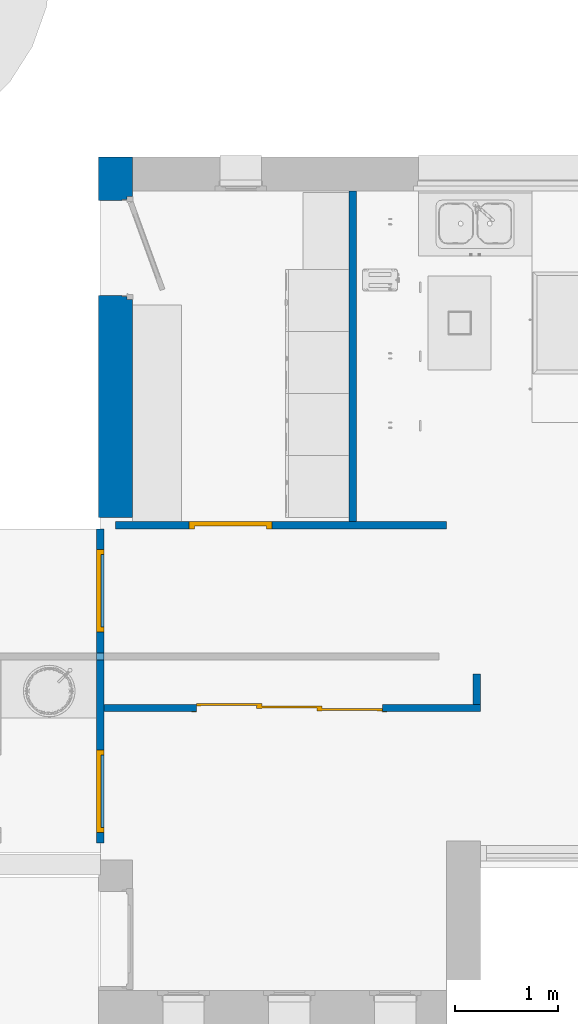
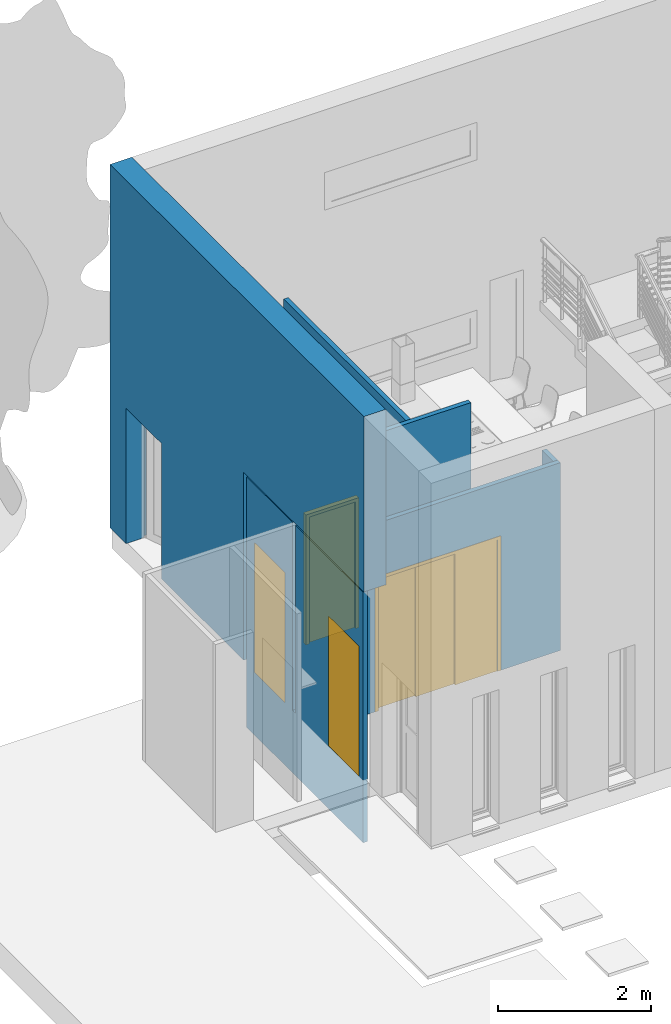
# One storey, part 10 of 40: 6 walls, 4 doors, 6 openings.
"""IFC2X3 building model written with IfcOpenShell, lengths in metres."""

from ifc_helpers import new_model, entity, si_unit, converted_unit, derived_unit, direction, frame, frame_2d, origin, origin_2d_with_axis, place, context, subcontext, project, spatial, polyline, circle_curve, parameter, trimmed, segment, composite_curve, rectangle, outline, extrude, clip, halfspace, bounded_halfspace, faceted_brep, source, transform, mapped, material, material_list, layer, layer_set, layer_usage, type_object, type_shapes, element, fill, save


model = new_model("IFC2X3")

# Units and contexts
model_context = context("Model", 3, precision=1e-05, world=origin(), true_north=direction((6.12303176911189e-17, 1.0)))
body_context = subcontext(model_context, "Body", "Model", "MODEL_VIEW")
ifc_project = project(units=[si_unit("LENGTHUNIT", "METRE"), si_unit("AREAUNIT", "SQUARE_METRE"), si_unit("VOLUMEUNIT", "CUBIC_METRE"), converted_unit("PLANEANGLEUNIT", "DEGREE", entity("IfcRatioMeasure", 0.0174532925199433), si_unit("PLANEANGLEUNIT", "RADIAN"), dimensions=[0, 0, 0, 0, 0, 0, 0]), si_unit("MASSUNIT", "GRAM", prefix="KILO"), derived_unit("MASSDENSITYUNIT", [(si_unit("MASSUNIT", "GRAM", prefix="KILO"), 1), (si_unit("LENGTHUNIT", "METRE"), -3)]), si_unit("TIMEUNIT", "SECOND"), si_unit("FREQUENCYUNIT", "HERTZ"), si_unit("THERMODYNAMICTEMPERATUREUNIT", "DEGREE_CELSIUS"), derived_unit("THERMALTRANSMITTANCEUNIT", [(si_unit("MASSUNIT", "GRAM", prefix="KILO"), 1), (si_unit("THERMODYNAMICTEMPERATUREUNIT", "KELVIN"), -1), (si_unit("TIMEUNIT", "SECOND"), -3)]), derived_unit("VOLUMETRICFLOWRATEUNIT", [(si_unit("LENGTHUNIT", "METRE"), 3), (si_unit("TIMEUNIT", "SECOND"), -1)]), si_unit("ELECTRICCURRENTUNIT", "AMPERE"), si_unit("ELECTRICVOLTAGEUNIT", "VOLT"), si_unit("POWERUNIT", "WATT"), si_unit("FORCEUNIT", "NEWTON", prefix="KILO"), si_unit("ILLUMINANCEUNIT", "LUX"), si_unit("LUMINOUSFLUXUNIT", "LUMEN"), si_unit("LUMINOUSINTENSITYUNIT", "CANDELA"), derived_unit("USERDEFINED", [(si_unit("MASSUNIT", "GRAM", prefix="KILO"), -1), (si_unit("LENGTHUNIT", "METRE"), -2), (si_unit("TIMEUNIT", "SECOND"), 3), (si_unit("LUMINOUSFLUXUNIT", "LUMEN"), 1)]), derived_unit("LINEARVELOCITYUNIT", [(si_unit("LENGTHUNIT", "METRE"), 1), (si_unit("TIMEUNIT", "SECOND"), -1)]), si_unit("PRESSUREUNIT", "PASCAL"), derived_unit("USERDEFINED", [(si_unit("LENGTHUNIT", "METRE"), -2), (si_unit("MASSUNIT", "GRAM", prefix="KILO"), 1), (si_unit("TIMEUNIT", "SECOND"), -2)])], contexts=[model_context])

# Site, building, storey
site_placement = place(None, origin())
site = spatial("IfcSite", under=ifc_project, at=site_placement, Name="Surface", CompositionType="ELEMENT")
building_placement = place(site_placement, origin())
building = spatial("IfcBuilding", under=site, at=building_placement, CompositionType="ELEMENT")
storey_placement = place(building_placement, origin())
storey = spatial("IfcBuildingStorey", under=building, at=storey_placement, Name="RDC", CompositionType="ELEMENT", Elevation=-1.0941605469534e-13)

# Wall, openings
ifc_material_1 = material(Name="Maçonnerie - Enduit")
ifc_layer_1 = layer(ifc_material_1, 0.02)
ifc_material_2 = material(Name="Blocs béton manufacturés")
ifc_layer_2 = layer(ifc_material_2, 0.2)
ifc_material_3 = material(Name="vide")
ifc_layer_3 = layer(ifc_material_3, 0.01)
ifc_material_4 = material(Name="Maçonnerie - Isolant")
ifc_layer_4 = layer(ifc_material_4, 0.09)
ifc_material_5 = material(Name="Plâtre")
ifc_layer_5 = layer(ifc_material_5, 0.01)
ifc_layer_set_1 = layer_set([ifc_layer_1, ifc_layer_2, ifc_layer_3, ifc_layer_4, ifc_layer_5], Name="Mur de base:M7 Ext. Crépis 2 + BBMC 20 + Isolant 11")
ifc_layer_usage_1 = layer_usage(ifc_layer_set_1, "AXIS2", "NEGATIVE", 0.165)
wall_type_1 = type_object("IfcWallType", Name="Mur de base:M7 Ext. Crépis 2 + BBMC 20 + Isolant 11", PredefinedType="STANDARD", material=ifc_layer_set_1)
wall_1_placement = place(storey_placement, frame((-4.8374888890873, 1.23701067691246, 0.0), z_axis=(0.0, 0.0, 1.0), x_axis=(0.0, 1.0, 0.0)))
wall_1 = element("IfcWallStandardCase", 1, at=wall_1_placement, inside=storey, type_object=wall_type_1, material=ifc_layer_usage_1, Name="Mur de base:M7 Ext. Crépis 2 + BBMC 20 + Isolant 11", ObjectType="Mur de base:M7 Ext. Crépis 2 + BBMC 20 + Isolant 11", context=body_context, shape_type="Clipping", body=[
    clip(extrude(rectangle(XDim=6.64000000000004, YDim=0.33, at=frame_2d((3.32000000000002, -6.93889390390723e-17), x_axis=(-1.0, 0.0))), origin(), (0.0, 0.0, 1.0), 5.80000000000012), halfspace(frame((0.0, 0.0, 3.0), z_axis=(-0.689655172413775, 0.0, -0.7241379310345), x_axis=(0.0, 1.0, 0.0)), False)),
])
opening_1_placement = place(wall_1_placement, origin())
element("IfcOpeningElement", 2, at=opening_1_placement, cuts=wall_1, Name="Mur de base:M7 Ext. Crépis 2 + BBMC 20 + Isolant 11", ObjectType="Opening", context=body_context, shape_type="SweptSolid", body=[
    extrude(outline(polyline([(-2.21034482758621, -0.724137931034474), (2.13965517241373, -0.724137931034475), (0.0706896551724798, 1.44827586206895), (-2.21034482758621, -0.724137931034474)])), frame((2.10000000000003, 0.165, 2.0), z_axis=(0.0, -1.0, 0.0), x_axis=(0.7241379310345, 0.0, -0.689655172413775)), (0.0, 0.0, 1.0), 0.33),
])
opening_2_placement = place(wall_1_placement, frame((5.26000000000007, 0.465000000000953, 0.0), z_axis=(0.0, 0.0, 1.0), x_axis=(0.0, -1.0, 0.0)))
element("IfcOpeningElement", 3, at=opening_2_placement, cuts=wall_1, Name="Mur de base:M7 Ext. Crépis 2 + BBMC 20 + Isolant 11", ObjectType="Opening", context=body_context, shape_type="Brep", body=[
    faceted_brep([(0.930000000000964, 0.960000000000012, 2.15999999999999), (0.638000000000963, 0.960000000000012, 2.15999999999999), (0.638000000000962, 0.0400000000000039, 2.15999999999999), (0.930000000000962, 0.0400000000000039, 2.15999999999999), (0.0, 0.960000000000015, 0.0), (0.530000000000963, 0.960000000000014, 0.0), (0.530000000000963, 0.969999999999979, 0.0), (0.578000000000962, 0.969999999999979, 0.0), (0.578000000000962, 1.0, 0.0), (0.638000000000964, 1.0, 0.0), (0.638000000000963, 0.959999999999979, 0.0), (0.930000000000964, 0.960000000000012, 0.0), (0.930000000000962, 0.0400000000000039, 0.0), (0.638000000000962, 0.0400000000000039, 0.0), (0.638000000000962, 0.0, 0.0), (0.57800000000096, 0.0, 0.0), (0.57800000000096, 0.0300000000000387, 0.0), (0.530000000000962, 0.0300000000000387, 0.0), (0.530000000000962, 0.0400000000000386, 0.0), (0.0, 0.040000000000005, 0.0), (0.0, 0.960000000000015, 2.15999999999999), (0.530000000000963, 0.960000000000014, 2.15999999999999), (0.0, 0.040000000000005, 2.15999999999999), (0.578000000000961, 0.0, 2.2), (0.578000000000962, 1.0, 2.2), (0.578000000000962, 0.969999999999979, 2.16999999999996), (0.578000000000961, 0.0300000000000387, 2.16999999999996), (0.530000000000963, 0.0300000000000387, 2.16999999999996), (0.530000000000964, 0.969999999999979, 2.16999999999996), (0.530000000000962, 0.0400000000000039, 2.15999999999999), (0.638000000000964, 1.0, 2.2), (0.638000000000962, 0.0, 2.2)], [[[0, 1, 2, 3]], [[4, 5, 6, 7, 8, 9, 10, 11, 12, 13, 14, 15, 16, 17, 18, 19]], [[20, 21, 5, 4]], [[20, 4, 19, 22]], [[3, 2, 13, 12]], [[3, 12, 11, 0]], [[15, 23, 24, 8, 7, 25, 26, 16]], [[16, 26, 27, 17]], [[17, 27, 28, 6, 5, 21, 29, 18]], [[13, 2, 1, 10, 9, 30, 31, 14]], [[14, 31, 23, 15]], [[25, 28, 27, 26]], [[23, 31, 30, 24]], [[7, 6, 28, 25]], [[24, 30, 9, 8]], [[19, 18, 29, 22]], [[11, 10, 1, 0]], [[22, 29, 21, 20]]]),
])

# Wall, openings, doors
ifc_material_6 = material(Name="Mur par défaut")
ifc_layer_6 = layer(ifc_material_6, 0.07)
ifc_layer_set_2 = layer_set([ifc_layer_6], Name="Mur de base:Générique - Int. 70 mm")
ifc_layer_usage_2 = layer_usage(ifc_layer_set_2, "AXIS2", "POSITIVE", -0.035)
wall_type_2 = type_object("IfcWallType", Name="Mur de base:Générique - Int. 70 mm", PredefinedType="STANDARD", material=ifc_layer_set_2)
wall_2_placement = place(storey_placement, frame((-4.9824888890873, 1.23701067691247, -1.0), z_axis=(0.0, 0.0, 1.0), x_axis=(0.0, 1.0, 0.0)))
wall_2 = element("IfcWallStandardCase", 4, at=wall_2_placement, inside=storey, type_object=wall_type_2, material=ifc_layer_usage_2, Name="Mur de base:Générique - Int. 70 mm", ObjectType="Mur de base:Générique - Int. 70 mm", context=body_context, shape_type="Clipping", body=[
    clip(extrude(rectangle(XDim=3.04000000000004, YDim=0.0699999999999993, at=frame_2d((1.52000000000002, -1.59594559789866e-16), x_axis=(-1.0, 0.0))), origin(), (0.0, 0.0, 1.0), 3.99999999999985), bounded_halfspace(frame((1.77, 0.0349999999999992, 1.0), z_axis=(0.0, 0.0, -1.0), x_axis=(1.0, 0.0, 0.0)), True, frame((1.77, 0.0349999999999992, 1.0), z_axis=(0.0, 0.0, -1.0), x_axis=(1.0, 0.0, 0.0)), polyline([(0.0, 0.0), (0.0699999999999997, 0.0), (0.0699999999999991, 0.0700000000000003), (0.0, 0.0700000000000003), (0.0, 0.0)]))),
])
opening_3_placement = place(wall_2_placement, frame((2.04000000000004, -0.0349999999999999, 1.0)))
opening_3 = element("IfcOpeningElement", 5, at=opening_3_placement, cuts=wall_2, Name="Int. Simple:PP (0.73m x 2.04m):1", ObjectType="Opening", context=body_context, shape_type="SweptSolid", body=[
    extrude(rectangle(XDim=2.075, YDim=0.799999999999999, at=frame_2d((1.0375, 0.4), x_axis=(1.0, 0.0))), frame((0.0, 0.0, 0.0), z_axis=(0.0, 1.0, 0.0), x_axis=(0.0, 0.0, 1.0)), (0.0, 0.0, 1.0), 0.07),
])
opening_4_placement = place(wall_2_placement, frame((0.100000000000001, -0.0349999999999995, 1.0)))
opening_4 = element("IfcOpeningElement", 6, at=opening_4_placement, cuts=wall_2, Name="Int. Simple:PP (0.73m x 2.04m):1", ObjectType="Opening", context=body_context, shape_type="SweptSolid", body=[
    extrude(rectangle(XDim=2.075, YDim=0.799999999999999, at=frame_2d((1.0375, 0.4), x_axis=(1.0, 0.0))), frame((0.0, 0.0, 0.0), z_axis=(0.0, 1.0, 0.0), x_axis=(0.0, 0.0, 1.0)), (0.0, 0.0, 1.0), 0.07),
])
ifc_material_7 = material(Name="Bois - Panneau de porte")
ifc_material_8 = material(Name="Bois - Cadre de porte")
ifc_material_list_1 = material_list([ifc_material_7, ifc_material_8])
ifc_material_list_2 = material_list([ifc_material_7, ifc_material_8])
door_style_1 = type_object("IfcDoorStyle", Name="PP (0.73m x 2.04m)", ConstructionType="NOTDEFINED", OperationType="SINGLE_SWING_RIGHT", ParameterTakesPrecedence=False, Sizeable=False, material=ifc_material_list_2)
shared_shape_1 = source(origin(), body_context, "Body", "Brep", [
    faceted_brep([(0.835000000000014, 0.0400000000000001, 2.04), (0.835000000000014, 0.0400000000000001, 0.0), (0.105000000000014, 0.0400000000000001, 0.0), (0.105000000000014, 0.0400000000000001, 2.04), (0.835000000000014, 0.0, 2.04), (0.105000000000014, 0.0, 2.04), (0.105000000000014, 0.0, 0.0), (0.835000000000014, 0.0, 0.0)], [[[0, 1, 2, 3]], [[4, 5, 6, 7]], [[3, 5, 4, 0]], [[2, 6, 5, 3]], [[1, 7, 6, 2]], [[0, 4, 7, 1]]]),
    faceted_brep([(0.870000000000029, 0.0, 0.0), (0.835000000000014, 0.0, 0.0), (0.835000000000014, 0.04, 0.0), (0.820000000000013, 0.04, 0.0), (0.820000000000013, 0.0699999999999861, 0.0), (0.870000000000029, 0.0699999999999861, 0.0), (0.870000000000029, 0.0699999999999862, 2.07500000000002), (0.870000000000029, 0.0, 2.07500000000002), (0.820000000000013, 0.0699999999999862, 2.025), (0.120000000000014, 0.0699999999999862, 2.025), (0.120000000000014, 0.0699999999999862, 0.0), (0.0699999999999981, 0.0699999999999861, 0.0), (0.0699999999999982, 0.0699999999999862, 2.07500000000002), (0.820000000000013, 0.04, 2.025), (0.835000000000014, 0.04, 2.04), (0.105000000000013, 0.04, 2.04), (0.105000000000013, 0.04, 0.0), (0.120000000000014, 0.04, 0.0), (0.120000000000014, 0.04, 2.025), (0.835000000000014, 0.0, 2.04), (0.0699999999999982, 0.0, 2.07500000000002), (0.0699999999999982, 0.0, 0.0), (0.105000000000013, 0.0, 0.0), (0.105000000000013, 0.0, 2.04)], [[[0, 1, 2, 3, 4, 5]], [[5, 6, 7, 0]], [[4, 8, 9, 10, 11, 12, 6, 5]], [[3, 13, 8, 4]], [[2, 14, 15, 16, 17, 18, 13, 3]], [[1, 19, 14, 2]], [[0, 7, 20, 21, 22, 23, 19, 1]], [[12, 11, 21, 20]], [[21, 11, 10, 17, 16, 22]], [[18, 17, 10, 9]], [[23, 22, 16, 15]], [[6, 12, 20, 7]], [[13, 18, 9, 8]], [[19, 23, 15, 14]]]),
])
type_shapes(door_style_1, [shared_shape_1])
door_1_placement = place(opening_3_placement, frame((0.870000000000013, 0.0699999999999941, 0.0), z_axis=(0.0, 0.0, 1.0), x_axis=(-1.0, 0.0, 0.0)))
door_1 = element("IfcDoor", 7, at=door_1_placement, inside=storey, type_object=door_style_1, material=ifc_material_list_1, Name="Int. Simple:PP (0.73m x 2.04m)", ObjectType="PP (0.73m x 2.04m)", OverallHeight=2.075, OverallWidth=0.799999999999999, context=body_context, shape_type="MappedRepresentation", body=[
    mapped(shared_shape_1, transform((0.0, 0.0, 0.0), scale=1.0)),
])
fill(opening_3, door_1)
ifc_material_list_3 = material_list([ifc_material_7, ifc_material_8])
ifc_material_list_4 = material_list([ifc_material_7, ifc_material_8])
door_style_2 = type_object("IfcDoorStyle", Name="PP (0.73m x 2.04m)", ConstructionType="NOTDEFINED", OperationType="SINGLE_SWING_LEFT", ParameterTakesPrecedence=False, Sizeable=False, material=ifc_material_list_4)
shared_shape_2 = source(origin(), body_context, "Body", "Brep", [
    faceted_brep([(0.0349999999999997, 0.0400000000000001, 2.04), (0.765, 0.0400000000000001, 2.04), (0.765, 0.0400000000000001, 0.0), (0.0349999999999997, 0.0400000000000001, 0.0), (0.0349999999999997, 0.0, 2.04), (0.0349999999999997, 0.0, 0.0), (0.765, 0.0, 0.0), (0.765, 0.0, 2.04)], [[[0, 1, 2, 3]], [[4, 5, 6, 7]], [[1, 0, 4, 7]], [[2, 1, 7, 6]], [[3, 2, 6, 5]], [[0, 3, 5, 4]]]),
    faceted_brep([(0.0, 0.0, 0.0), (0.0, 0.0699999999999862, 0.0), (0.0500000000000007, 0.0699999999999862, 0.0), (0.0500000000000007, 0.04, 0.0), (0.0349999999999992, 0.04, 0.0), (0.0349999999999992, 0.0, 0.0), (0.0, 0.0, 2.07500000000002), (0.0, 0.0699999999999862, 2.07500000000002), (0.800000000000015, 0.0699999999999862, 2.07500000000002), (0.800000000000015, 0.0699999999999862, 0.0), (0.749999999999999, 0.0699999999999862, 0.0), (0.749999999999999, 0.0699999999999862, 2.025), (0.0500000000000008, 0.0699999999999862, 2.025), (0.0500000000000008, 0.04, 2.025), (0.749999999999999, 0.04, 2.025), (0.749999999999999, 0.04, 0.0), (0.765000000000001, 0.04, 0.0), (0.765000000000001, 0.04, 2.04), (0.0349999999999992, 0.04, 2.04), (0.0349999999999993, 0.0, 2.04), (0.765000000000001, 0.0, 2.04), (0.765000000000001, 0.0, 0.0), (0.800000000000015, 0.0, 0.0), (0.800000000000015, 0.0, 2.07500000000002)], [[[0, 1, 2, 3, 4, 5]], [[1, 0, 6, 7]], [[2, 1, 7, 8, 9, 10, 11, 12]], [[3, 2, 12, 13]], [[4, 3, 13, 14, 15, 16, 17, 18]], [[5, 4, 18, 19]], [[0, 5, 19, 20, 21, 22, 23, 6]], [[8, 23, 22, 9]], [[22, 21, 16, 15, 10, 9]], [[14, 11, 10, 15]], [[20, 17, 16, 21]], [[7, 6, 23, 8]], [[13, 12, 11, 14]], [[19, 18, 17, 20]]]),
])
type_shapes(door_style_2, [shared_shape_2])
door_2_placement = place(opening_4_placement, frame((0.799999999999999, 0.0699999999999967, 0.0), z_axis=(0.0, 0.0, 1.0), x_axis=(-1.0, 0.0, 0.0)))
door_2 = element("IfcDoor", 8, at=door_2_placement, inside=storey, type_object=door_style_2, material=ifc_material_list_3, Name="Int. Simple:PP (0.73m x 2.04m)", ObjectType="PP (0.73m x 2.04m)", OverallHeight=2.075, OverallWidth=0.799999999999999, context=body_context, shape_type="MappedRepresentation", body=[
    mapped(shared_shape_2, transform((0.0, 0.0, 0.0), scale=1.0)),
])
fill(opening_4, door_2)

# Wall, opening, door
ifc_layer_usage_3 = layer_usage(ifc_layer_set_2, "AXIS2", "NEGATIVE", 0.035)
wall_3_placement = place(storey_placement, frame((-1.3024888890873, 2.54201067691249, 0.0), z_axis=(0.0, 0.0, 1.0), x_axis=(-1.0, 0.0, 0.0)))
wall_3 = element("IfcWallStandardCase", 9, at=wall_3_placement, inside=storey, type_object=wall_type_2, material=ifc_layer_usage_3, Name="Mur de base:Générique - Int. 70 mm", ObjectType="Mur de base:Générique - Int. 70 mm", context=body_context, shape_type="SweptSolid", body=[
    extrude(rectangle(XDim=3.645, YDim=0.0700000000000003, at=frame_2d((1.8225, -1.11022302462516e-16), x_axis=(-1.0, 0.0))), origin(), (0.0, 0.0, 1.0), 3.0),
])
opening_5_placement = place(wall_3_placement, frame((0.950000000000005, -0.0349999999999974, 0.0)))
opening_5 = element("IfcOpeningElement", 10, at=opening_5_placement, cuts=wall_3, Name="Placard coulissante - 3 panneaux:Placard coulissante - 3 panneaux:1", ObjectType="Opening", context=body_context, shape_type="SweptSolid", body=[
    extrude(rectangle(XDim=2.09999999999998, YDim=1.8, at=frame_2d((1.04999999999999, 0.9), x_axis=(1.0, 0.0))), frame((0.0, 0.0, 0.0), z_axis=(0.0, 1.0, 0.0), x_axis=(0.0, 0.0, 1.0)), (0.0, 0.0, 1.0), 0.07),
])
ifc_material_9 = material(Name="Placard - Profil")
ifc_material_10 = material(Name="Placard - Encadrement")
ifc_material_11 = material(Name="Placard - Porte")
ifc_material_list_5 = material_list([ifc_material_9, ifc_material_10, ifc_material_11])
ifc_material_list_6 = material_list([ifc_material_9, ifc_material_10, ifc_material_11])
door_style_3 = type_object("IfcDoorStyle", Name="Placard coulissante - 3 panneaux", ConstructionType="NOTDEFINED", OperationType="SLIDING_TO_RIGHT", ParameterTakesPrecedence=False, Sizeable=False, material=ifc_material_list_6)
shared_shape_3 = source(origin(), body_context, "Body", "SweptSolid", [
    extrude(outline(composite_curve([segment(polyline([(-0.0250000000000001, -0.00100000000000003), (0.0249999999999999, -0.00100000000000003)]), True, "CONTINUOUS"), segment(polyline([(0.0249999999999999, -0.00100000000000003), (0.0249999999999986, 0.00100000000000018)]), True, "CONTINUOUS"), segment(trimmed(circle_curve(frame_2d((0.0, -0.212860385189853), x_axis=(-1.0, 0.0)), 0.215316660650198), [parameter(263.332459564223)], [parameter(276.667540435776)], True, "PARAMETER"), True, "CONTINUOUS"), segment(polyline([(-0.0250000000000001, 0.00100000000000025), (-0.0250000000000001, -0.00100000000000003)]), True, "CONTINUOUS")], self_intersect=False)), frame((1.775, 0.00899999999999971, 0.0), z_axis=(0.0, 0.0, 1.0), x_axis=(-1.0, 0.0, 0.0)), (0.0, 0.0, 1.0), 2.1),
    extrude(outline(composite_curve([segment(polyline([(-0.0250000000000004, -0.00100000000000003), (0.0249999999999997, -0.00100000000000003)]), True, "CONTINUOUS"), segment(polyline([(0.0249999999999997, -0.00100000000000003), (0.0249999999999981, 0.00100000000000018)]), True, "CONTINUOUS"), segment(trimmed(circle_curve(frame_2d((0.0, -0.212860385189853), x_axis=(-1.0, 0.0)), 0.215316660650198), [parameter(263.332459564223)], [parameter(276.667540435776)], True, "PARAMETER"), True, "CONTINUOUS"), segment(polyline([(-0.0250000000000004, 0.00100000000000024), (-0.0250000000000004, -0.00100000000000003)]), True, "CONTINUOUS")], self_intersect=False)), frame((1.19166666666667, 0.00900000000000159, 0.0), z_axis=(0.0, 0.0, 1.0), x_axis=(-1.0, 0.0, 0.0)), (0.0, 0.0, 1.0), 2.1),
    extrude(outline(composite_curve([segment(polyline([(-0.0250000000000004, -0.00100000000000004), (0.0249999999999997, -0.00100000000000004)]), True, "CONTINUOUS"), segment(polyline([(0.0249999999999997, -0.00100000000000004), (0.0249999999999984, 0.00100000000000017)]), True, "CONTINUOUS"), segment(trimmed(circle_curve(frame_2d((0.0, -0.212860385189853), x_axis=(-1.0, 0.0)), 0.215316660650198), [parameter(263.332459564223)], [parameter(276.667540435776)], True, "PARAMETER"), True, "CONTINUOUS"), segment(polyline([(-0.0250000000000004, 0.00100000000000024), (-0.0250000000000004, -0.00100000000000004)]), True, "CONTINUOUS")], self_intersect=False)), frame((1.19166666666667, 0.0340000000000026, 0.0), z_axis=(0.0, 0.0, 1.0), x_axis=(-1.0, 0.0, 0.0)), (0.0, 0.0, 1.0), 2.1),
    extrude(outline(composite_curve([segment(polyline([(-0.0250000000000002, -0.00100000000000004), (0.0249999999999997, -0.00100000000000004)]), True, "CONTINUOUS"), segment(polyline([(0.0249999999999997, -0.00100000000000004), (0.0249999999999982, 0.00100000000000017)]), True, "CONTINUOUS"), segment(trimmed(circle_curve(frame_2d((0.0, -0.212860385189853), x_axis=(-1.0, 0.0)), 0.215316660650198), [parameter(263.332459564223)], [parameter(276.667540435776)], True, "PARAMETER"), True, "CONTINUOUS"), segment(polyline([(-0.0250000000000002, 0.00100000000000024), (-0.0250000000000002, -0.00100000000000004)]), True, "CONTINUOUS")], self_intersect=False)), frame((0.608333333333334, 0.0340000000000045, 0.0), z_axis=(0.0, 0.0, 1.0), x_axis=(-1.0, 0.0, 0.0)), (0.0, 0.0, 1.0), 2.1),
    extrude(outline(composite_curve([segment(polyline([(-0.0250000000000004, -0.00100000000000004), (0.0249999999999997, -0.00100000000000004)]), True, "CONTINUOUS"), segment(polyline([(0.0249999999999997, -0.00100000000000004), (0.0249999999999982, 0.00100000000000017)]), True, "CONTINUOUS"), segment(trimmed(circle_curve(frame_2d((0.0, -0.212860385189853), x_axis=(-1.0, 0.0)), 0.215316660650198), [parameter(263.332459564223)], [parameter(276.667540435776)], True, "PARAMETER"), True, "CONTINUOUS"), segment(polyline([(-0.0250000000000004, 0.00100000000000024), (-0.0250000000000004, -0.00100000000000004)]), True, "CONTINUOUS")], self_intersect=False)), frame((0.608333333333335, 0.0590000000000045, 0.0), z_axis=(0.0, 0.0, 1.0), x_axis=(-1.0, 0.0, 0.0)), (0.0, 0.0, 1.0), 2.1),
    extrude(outline(composite_curve([segment(polyline([(-0.0250000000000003, -0.00100000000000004), (0.0249999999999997, -0.00100000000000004)]), True, "CONTINUOUS"), segment(polyline([(0.0249999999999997, -0.00100000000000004), (0.0249999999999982, 0.00100000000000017)]), True, "CONTINUOUS"), segment(trimmed(circle_curve(frame_2d((0.0, -0.212860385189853), x_axis=(-1.0, 0.0)), 0.215316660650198), [parameter(263.332459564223)], [parameter(276.667540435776)], True, "PARAMETER"), True, "CONTINUOUS"), segment(polyline([(-0.0250000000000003, 0.00100000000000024), (-0.0250000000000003, -0.00100000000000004)]), True, "CONTINUOUS")], self_intersect=False)), frame((0.0250000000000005, 0.0590000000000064, 0.0), z_axis=(0.0, 0.0, 1.0), x_axis=(-1.0, 0.0, 0.0)), (0.0, 0.0, 1.0), 2.1),
    extrude(outline(polyline([(-1.06149999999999, -0.948), (1.08649999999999, -0.948), (1.08649999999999, 0.948), (-1.06149999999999, 0.948), (-1.06149999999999, 0.898), (1.03649999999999, 0.898), (1.03649999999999, -0.898), (-1.06149999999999, -0.898), (-1.06149999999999, -0.948)])), frame((0.9, -0.003, 1.06149999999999), z_axis=(0.0, 1.0, 0.0), x_axis=(0.0, 0.0, 1.0)), (0.0, 0.0, 1.0), 0.003),
    extrude(rectangle(XDim=0.020000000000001, YDim=0.633333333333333, at=frame_2d((0.0, 8.32667268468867e-17), x_axis=(1.0, 0.0))), frame((1.48333333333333, 0.0200000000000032, 0.0), z_axis=(0.0, 0.0, 1.0), x_axis=(0.0, 1.0, 0.0)), (0.0, 0.0, 1.0), 2.1),
    extrude(rectangle(XDim=0.633333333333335, YDim=0.02, at=origin_2d_with_axis()), frame((0.316666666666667, 0.0700000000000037, 0.0), z_axis=(0.0, 0.0, 1.0), x_axis=(-1.0, 0.0, 0.0)), (0.0, 0.0, 1.0), 2.1),
    extrude(rectangle(XDim=0.02, YDim=0.633333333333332, at=origin_2d_with_axis()), frame((0.9, 0.0450000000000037, 0.0), z_axis=(0.0, 0.0, 1.0), x_axis=(0.0, 1.0, 0.0)), (0.0, 0.0, 1.0), 2.1),
])
type_shapes(door_style_3, [shared_shape_3])
door_3_placement = place(opening_5_placement, frame((1.8, 0.0699999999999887, 0.0), z_axis=(0.0, 0.0, 1.0), x_axis=(-1.0, 0.0, 0.0)))
door_3 = element("IfcDoor", 11, at=door_3_placement, inside=storey, type_object=door_style_3, material=ifc_material_list_5, Name="Placard coulissante - 3 panneaux:Placard coulissante - 3 panneaux", ObjectType="Placard coulissante - 3 panneaux", OverallHeight=2.09999999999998, OverallWidth=1.8, context=body_context, shape_type="MappedRepresentation", body=[
    mapped(shared_shape_3, transform((0.0, 0.0, 0.0), scale=1.0)),
])
fill(opening_5, door_3)

# Wall
ifc_layer_usage_4 = layer_usage(ifc_layer_set_2, "AXIS2", "POSITIVE", -0.035)
wall_4_placement = place(storey_placement, frame((-1.3374888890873, 2.87051067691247, 0.0), z_axis=(0.0, 0.0, 1.0), x_axis=(0.0, -1.0, 0.0)))
element("IfcWallStandardCase", 12, at=wall_4_placement, inside=storey, type_object=wall_type_2, material=ifc_layer_usage_4, Name="Mur de base:Générique - Int. 70 mm", ObjectType="Mur de base:Générique - Int. 70 mm", context=body_context, shape_type="SweptSolid", body=[
    extrude(rectangle(XDim=0.293499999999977, YDim=0.0699999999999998, at=frame_2d((0.146749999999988, -3.12250225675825e-17), x_axis=(-1.0, 0.0))), origin(), (0.0, 0.0, 1.0), 3.0),
])

# Wall, opening, door
ifc_layer_usage_5 = layer_usage(ifc_layer_set_2, "AXIS2", "POSITIVE", -0.035)
wall_5_placement = place(storey_placement, frame((-4.8374888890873, 4.3120106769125, 0.0)))
wall_5 = element("IfcWallStandardCase", 13, at=wall_5_placement, inside=storey, type_object=wall_type_2, material=ifc_layer_usage_5, Name="Mur de base:Générique - Int. 70 mm", ObjectType="Mur de base:Générique - Int. 70 mm", context=body_context, shape_type="Clipping", body=[
    clip(extrude(rectangle(XDim=3.205, YDim=0.0700000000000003, at=frame_2d((1.6025, -6.93889390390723e-18), x_axis=(-1.0, 0.0))), origin(), (0.0, 0.0, 1.0), 3.0), bounded_halfspace(frame((3.205, -0.0349999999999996, 3.0), z_axis=(0.0, 0.0, -1.0), x_axis=(0.0, -1.0, 0.0)), True, frame((3.205, -0.0349999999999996, 3.0)), polyline([(0.0, 0.0), (0.0, 0.0699999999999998), (-0.869999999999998, 0.0699999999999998), (-0.939999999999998, 0.0700000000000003), (-3.04, 0.0699999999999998), (-3.04, 0.0), (0.0, 0.0)]))),
])
opening_6_placement = place(wall_5_placement, frame((0.715000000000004, -0.0349999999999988, 0.0)))
opening_6 = element("IfcOpeningElement", 14, at=opening_6_placement, cuts=wall_5, Name="Int. Simple:PP (0.73m x 2.04m):1", ObjectType="Opening", context=body_context, shape_type="SweptSolid", body=[
    extrude(rectangle(XDim=2.075, YDim=0.799999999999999, at=frame_2d((1.0375, 0.4), x_axis=(1.0, 0.0))), frame((0.0, 0.0, 0.0), z_axis=(0.0, 1.0, 0.0), x_axis=(0.0, 0.0, 1.0)), (0.0, 0.0, 1.0), 0.07),
])
ifc_material_list_7 = material_list([ifc_material_7, ifc_material_8])
door_4_placement = place(opening_6_placement, frame((0.870000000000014, 0.0699999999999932, 0.0), z_axis=(0.0, 0.0, 1.0), x_axis=(-1.0, 0.0, 0.0)))
door_4 = element("IfcDoor", 15, at=door_4_placement, inside=storey, type_object=door_style_1, material=ifc_material_list_7, Name="Int. Simple:PP (0.73m x 2.04m)", ObjectType="PP (0.73m x 2.04m)", OverallHeight=2.075, OverallWidth=0.799999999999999, context=body_context, shape_type="MappedRepresentation", body=[
    mapped(shared_shape_1, transform((0.0, 0.0, 0.0), scale=1.0)),
])
fill(opening_6, door_4)

# Wall
ifc_layer_usage_6 = layer_usage(ifc_layer_set_2, "AXIS2", "NEGATIVE", 0.035)
wall_6_placement = place(storey_placement, frame((-2.53748888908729, 7.5470106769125, 0.0), z_axis=(0.0, 0.0, 1.0), x_axis=(0.0, -1.0, 0.0)))
element("IfcWallStandardCase", 16, at=wall_6_placement, inside=storey, type_object=wall_type_2, material=ifc_layer_usage_6, Name="Mur de base:Générique - Int. 70 mm", ObjectType="Mur de base:Générique - Int. 70 mm", context=body_context, shape_type="Clipping", body=[
    clip(extrude(rectangle(XDim=3.20000000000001, YDim=0.0700000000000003, at=frame_2d((1.6, -5.89805981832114e-17), x_axis=(-1.0, 0.0))), origin(), (0.0, 0.0, 1.0), 2.99999999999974), bounded_halfspace(frame((0.0, -0.0349999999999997, 3.0), z_axis=(0.0, 0.0, -1.0), x_axis=(1.0, 0.0, 0.0)), True, frame((0.0, -0.0349999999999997, 3.0)), polyline([(0.0, 0.0), (3.20000000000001, 0.0), (3.20000000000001, 0.0699999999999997), (0.0, 0.0699999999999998), (0.0, 0.0)]))),
])

save(model, "model.ifc")
